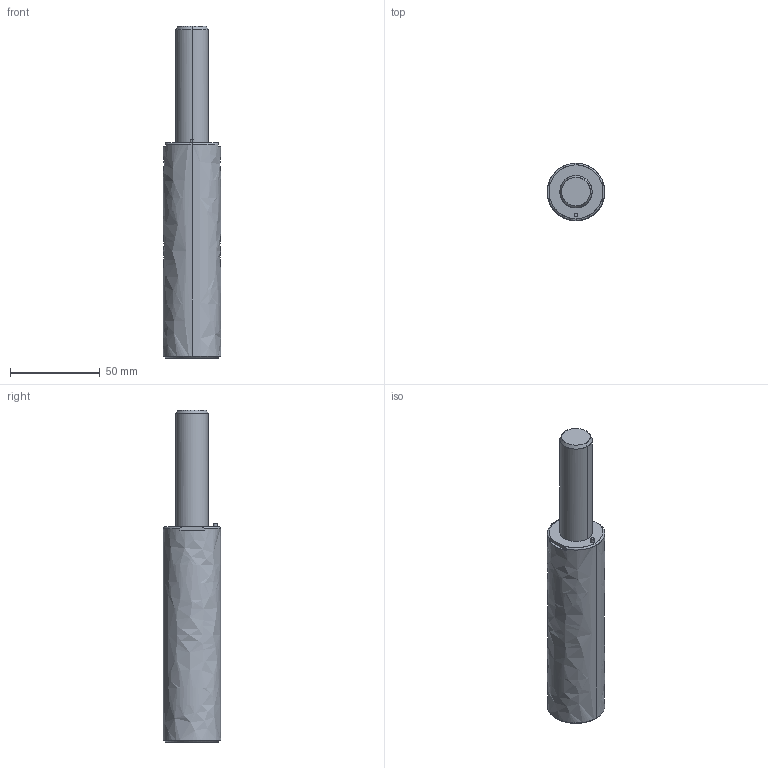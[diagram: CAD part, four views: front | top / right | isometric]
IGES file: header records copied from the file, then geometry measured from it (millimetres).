
Global section: file name: E:\UnigraphicsGraphicData\MISUMI_PRESS-PARTS\IGES\3d_gsx32-63_03968_r00.igs; native system: NX V5.0; preprocessor: UGS NX IGES V5.0; author: MISUMI; date: 20110105.160823; units: millimetre
Bounding box: 32 x 32 x 185 mm (x, y, z)
Surface area: 18103 mm2 (no closed solid volume)
Topology: 0 solids, 0 shells, 45 faces, 308 edges, 304 vertices
Faces by surface type: bspline 45
